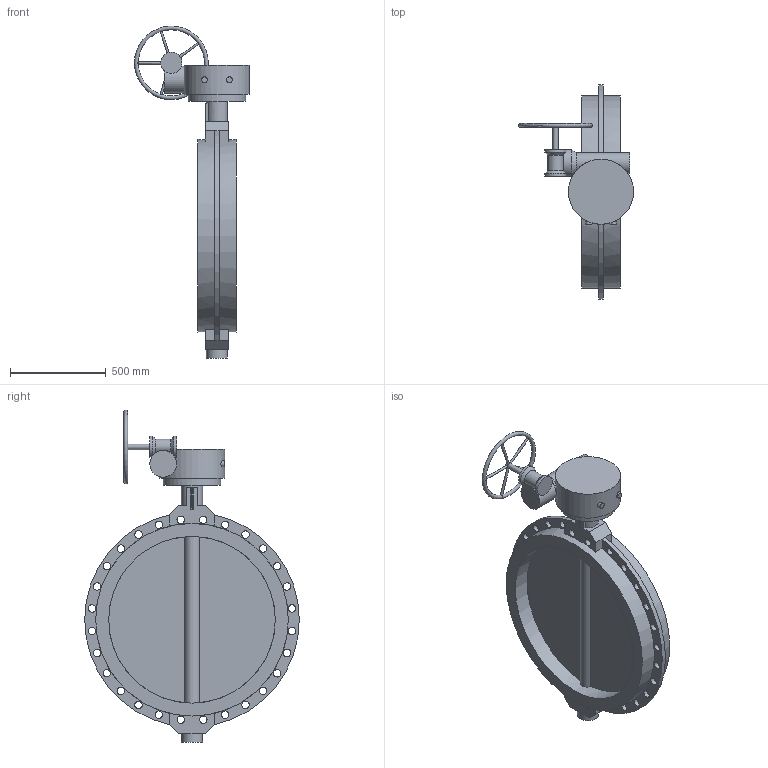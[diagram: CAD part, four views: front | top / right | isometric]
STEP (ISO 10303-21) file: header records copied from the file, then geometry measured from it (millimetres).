
FILE_DESCRIPTION(('STEP AP203'), '1');
FILE_NAME('Çàòâîð 017W.Z(÷óãóí) DN900 PN16 ðåäóêòîð', '', ('UNSPECIFIED'), ('UNSPECIFIED'), 'ASCON STEP Converter 1.6', 'ASCON Math Kernel', '');
FILE_SCHEMA(('CONFIG_CONTROL_DESIGN'));
Length unit declared in the file: millimetre
Bounding box: 600.48 x 1120 x 1732.48 mm (x, y, z)
Volume: 90751015.2 mm3; surface area: 3942277.6 mm2
Topology: 1 solids, 1 shells, 731 faces, 2044 edges, 1359 vertices
Faces by surface type: cylinder 537, plane 190, cone 3, torus 1
Full cylindrical faces by diameter (mm): 12 x5, 14 x8, 18 x8, 28 x1, 30 x2, 39 x28, 110 x5, 140 x1, 300 x1, 340 x1, 870 x2, 1005 x2
Entity records: 32593 total; most frequent: CARTESIAN_POINT 7003, DIRECTION 4487, ORIENTED_EDGE 3952, EDGE_CURVE 1976, AXIS2_PLACEMENT_3D 1807, VERTEX_POINT 1358, CIRCLE 1075, EDGE_LOOP 906
